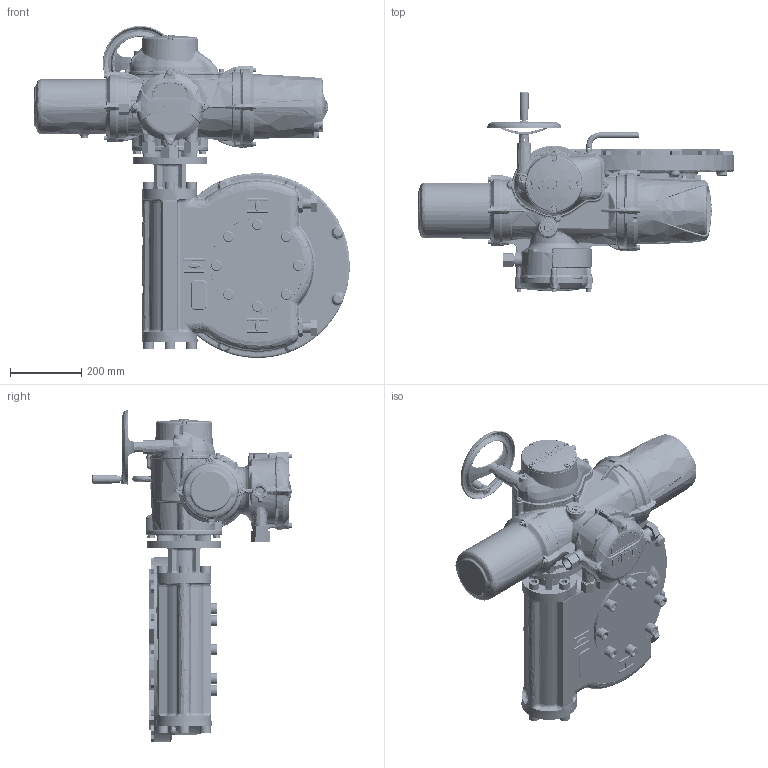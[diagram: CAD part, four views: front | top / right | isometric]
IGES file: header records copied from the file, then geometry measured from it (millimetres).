
Start section: C
Global section: file name: II3SHWIW8STD-1.igs; native system: By Siemens PLM Incorporated; preprocessor: XPlus GENERIC/IGES 16.0.42; author: Author; organization: Title; date: 20150115.164131; units: millimetre
Bounding box: 887.61 x 563.65 x 934.23 mm (x, y, z)
Surface area: 2202831.5 mm2 (no closed solid volume)
Topology: 0 solids, 0 shells, 7829 faces, 41710 edges, 41323 vertices
Faces by surface type: bspline 7829
